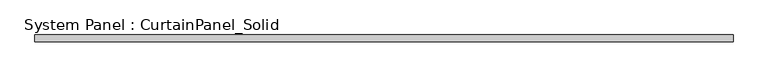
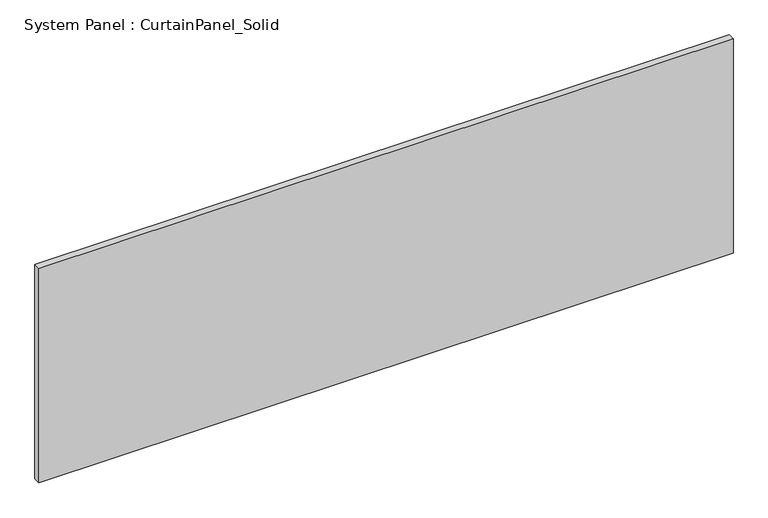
"""IFC4 building model written with IfcOpenShell, lengths in millimetres: plate geometry, System Panel : CurtainPanel_Solid."""

from ifc_helpers import new_model, si_unit, origin, origin_with_axes, place, context, project, spatial, polyline, outline, extrude, source, transform, mapped, element, save


def system_panel_curtainpanel_solid_e1c9013e(model_context):
    return source(origin(), model_context, "Body", "SweptSolid", [
        extrude(outline(polyline([(1301.0000001, -12.5), (-1301.0000001, -12.5), (-1301.0000001, 12.5), (1301.0000001, 12.5), (1301.0000001, -12.5)])), origin_with_axes(), (0.0, 0.0, 1.0), 850.0),
    ])


if __name__ == "__main__":
    model = new_model("IFC4")
    model_context = context("Model", 3, world=origin())
    ifc_project = project(units=[si_unit("LENGTHUNIT", "METRE", prefix="MILLI")], contexts=[model_context])
    site = spatial("IfcSite", under=ifc_project)
    building = spatial("IfcBuilding", under=site)
    placement = place(None, origin())
    system_panel_curtainpanel_solid_shape = system_panel_curtainpanel_solid_e1c9013e(model_context)
    element("IfcPlate", 1, ObjectType="System Panel : CurtainPanel_Solid", at=placement, inside=building, context=model_context, shape_type="MappedRepresentation", body=[
        mapped(system_panel_curtainpanel_solid_shape, transform((0.0, 0.0, 0.0), x_axis=(1.0, 0.0, 0.0), y_axis=(0.0, 1.0, 0.0), z_axis=(0.0, 0.0, 1.0))),
    ])
    save(model, "model.ifc")
